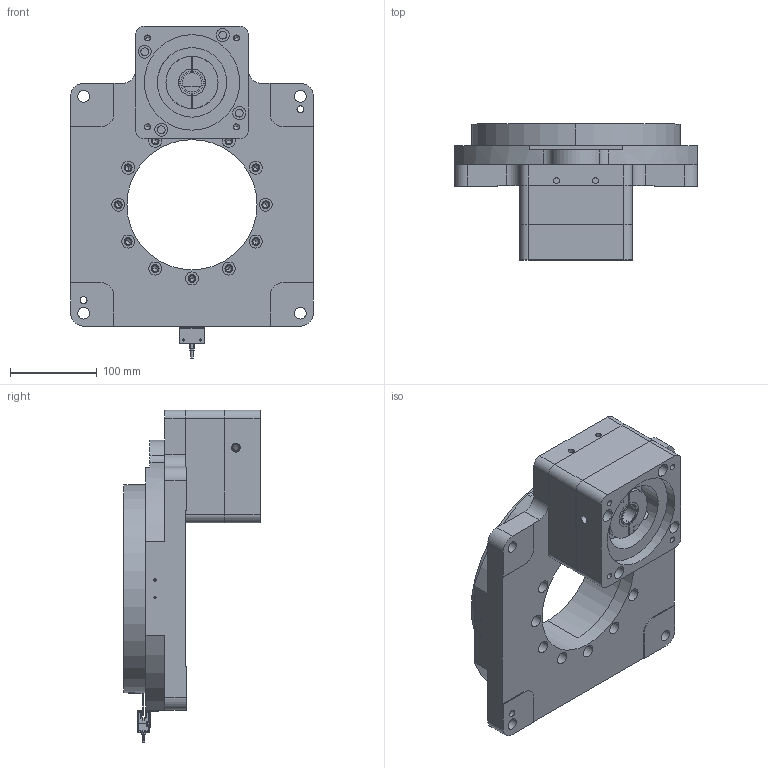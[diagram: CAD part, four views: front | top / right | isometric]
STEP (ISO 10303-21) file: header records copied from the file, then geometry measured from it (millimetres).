
FILE_DESCRIPTION((''),'2;1');
FILE_NAME('ZCT280_ASM_75_ASM','2021-07-15T14:23:13',('Administrator'),(''),'CREO PARAMETRIC BY PTC INC, 2017260','CREO PARAMETRIC BY PTC INC, 2017260','');
FILE_SCHEMA(('CONFIG_CONTROL_DESIGN','SHAPE_APPEARANCE_LAYERS_GROUPS'));
Length unit declared in the file: millimetre
Products named in the file (15): HELICAL-M2Z12-L-ZCT280_80; LOCK-RING_ZCT280_114; _2497_10_112; _10_112; _4398_10_112; _100_112; ST-303_1_2_ASM_112_ASM; HOLDER_ZCH150_112; ROCKER_ZCT280_113; SENSOR_ZCT280_ASM_112_ASM; BASE-SOLID_ZCT280_80; BEARING-SEAT-SOLID_ZCT280_76; FLANGE-SOLID_ZCT280-110-145-M8_; SHAFT-SLEEVE-24TO22; ZCT280_ASM_75_ASM
Assembly tree (14 placements, depth 4):
  ZCT280_ASM_75_ASM
    HELICAL-M2Z12-L-ZCT280_80
    LOCK-RING_ZCT280_114
    SENSOR_ZCT280_ASM_112_ASM
      ST-303_1_2_ASM_112_ASM
        _2497_10_112
        _10_112
        _4398_10_112
        _100_112
      HOLDER_ZCH150_112
      ROCKER_ZCT280_113
    BASE-SOLID_ZCT280_80
    BEARING-SEAT-SOLID_ZCT280_76
    FLANGE-SOLID_ZCT280-110-145-M8_
    SHAFT-SLEEVE-24TO22
Bounding box: 280 x 157 x 382.7 mm (x, y, z)
Volume: 4466346.3 mm3; surface area: 433147.4 mm2
Topology: 12 solids, 26 shells, 813 faces, 2126 edges, 1348 vertices
Faces by surface type: plane 360, cylinder 351, cone 86, torus 8, sphere 8
Entity records: 25457 total; most frequent: CARTESIAN_POINT 4864, DIRECTION 4428, ORIENTED_EDGE 4068, EDGE_CURVE 2034, AXIS2_PLACEMENT_3D 1612, VERTEX_POINT 1348, VECTOR 1204, LINE 1204
